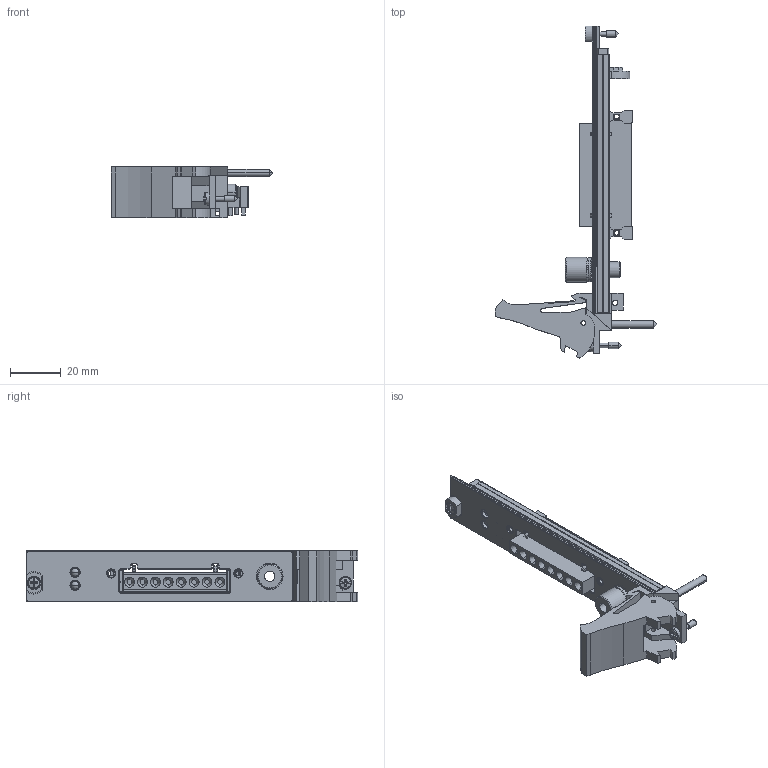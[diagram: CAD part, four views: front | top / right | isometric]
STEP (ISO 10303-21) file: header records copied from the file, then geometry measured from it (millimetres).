
FILE_DESCRIPTION((''),'2;1');
FILE_NAME('CU_PXIE-4138','2013-11-22T',('jjorden'),(''),'PRO/ENGINEER BY PARAMETRIC TECHNOLOGY CORPORATION, 2011490','PRO/ENGINEER BY PARAMETRIC TECHNOLOGY CORPORATION, 2011490','');
FILE_SCHEMA(('CONFIG_CONTROL_DESIGN'));
Length unit declared in the file: inch
Products named in the file (1): CU_PXIE-4138
Bounding box: 63.53 x 130.51 x 20.29 mm (x, y, z)
Volume: 21818.3 mm3; surface area: 19612.7 mm2
Topology: 3 solids, 3 shells, 837 faces, 2226 edges, 1446 vertices
Faces by surface type: plane 572, cylinder 203, cone 50, sphere 8, torus 4
Entity records: 26502 total; most frequent: CARTESIAN_POINT 5520, ORIENTED_EDGE 4436, DIRECTION 4202, EDGE_CURVE 2218, VECTOR 1510, LINE 1510, VERTEX_POINT 1446, AXIS2_PLACEMENT_3D 1346
